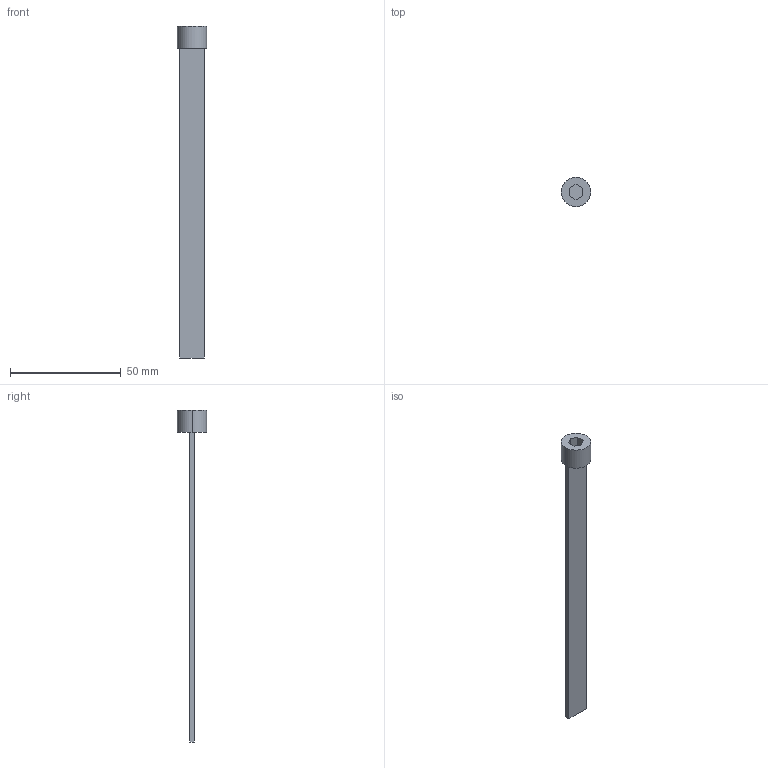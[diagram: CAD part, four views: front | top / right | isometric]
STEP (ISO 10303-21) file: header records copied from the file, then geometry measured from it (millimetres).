
FILE_DESCRIPTION (( 'STEP AP214' ), '1' );
FILE_NAME ('BruyRubio_BR965-1_4-150.STEP', '2021-05-31T08:06:59', ( '' ), ( '' ), 'SwSTEP 2.0', 'SolidWorks 2018', '' );
FILE_SCHEMA (( 'AUTOMOTIVE_DESIGN' ));
Length unit declared in the file: millimetre
Products named in the file (1): BruyRubio_BR965-1_4-150
Bounding box: 13.2 x 13.2 x 150 mm (x, y, z)
Volume: 4230.2 mm3; surface area: 4473.9 mm2
Topology: 1 solids, 1 shells, 16 faces, 36 edges, 24 vertices
Faces by surface type: plane 14, cylinder 2
Entity records: 478 total; most frequent: CARTESIAN_POINT 77, DIRECTION 74, ORIENTED_EDGE 72, EDGE_CURVE 36, LINE 32, VECTOR 32, VERTEX_POINT 24, AXIS2_PLACEMENT_3D 21
